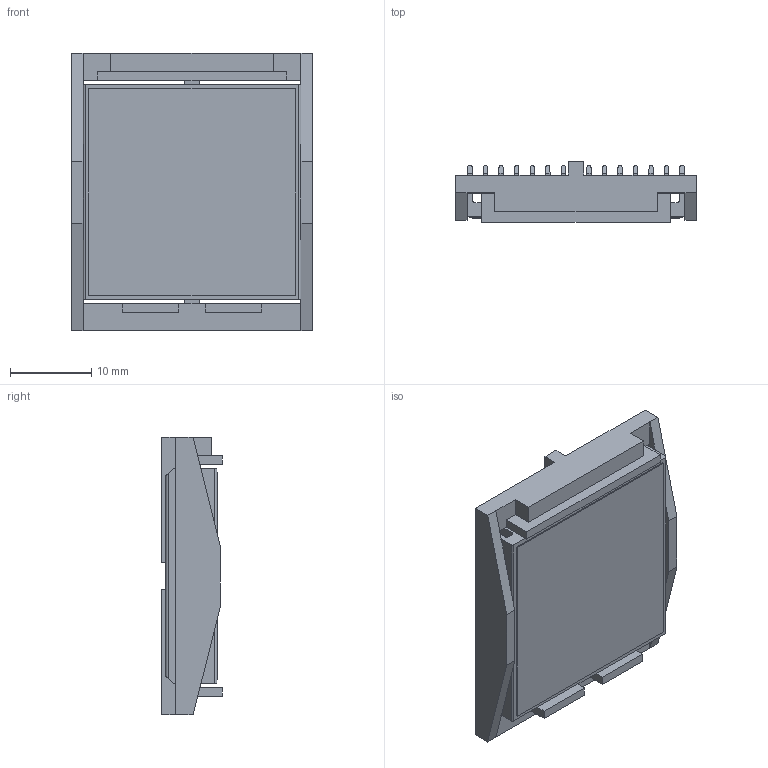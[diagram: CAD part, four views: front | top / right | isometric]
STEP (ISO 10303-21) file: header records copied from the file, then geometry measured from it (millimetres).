
FILE_DESCRIPTION (( 'STEP AP214' ), '1' );
FILE_NAME ('INL27001-6-1.7O.STEP', '2023-02-21T21:32:40', ( '' ), ( '' ), 'SwSTEP 2.0', 'SolidWorks 2020', '' );
FILE_SCHEMA (( 'AUTOMOTIVE_DESIGN' ));
Length unit declared in the file: millimetre
Products named in the file (1): INL27001-6-1.7O
Bounding box: 29.6 x 7.5 x 34.1 mm (x, y, z)
Volume: 3512 mm3; surface area: 8060.8 mm2
Topology: 3 solids, 3 shells, 168 faces, 488 edges, 324 vertices
Faces by surface type: plane 126, cylinder 42
Entity records: 7380 total; most frequent: CARTESIAN_POINT 1065, ORIENTED_EDGE 976, DIRECTION 854, EDGE_CURVE 488, LINE 404, VECTOR 404, VERTEX_POINT 324, AXIS2_PLACEMENT_3D 225
